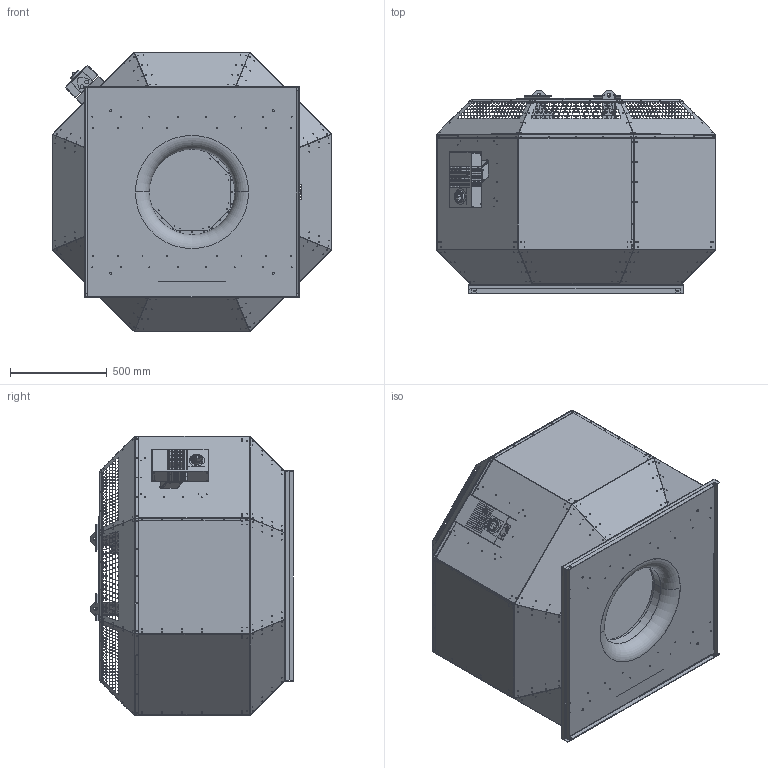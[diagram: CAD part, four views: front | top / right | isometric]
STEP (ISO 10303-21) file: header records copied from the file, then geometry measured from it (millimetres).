
FILE_DESCRIPTION (( 'STEP AP203' ), '1' );
FILE_NAME ('144600-00_DVN710D6F430_step.step', '2018-12-21T10:22:23', ( '' ), ( '' ), 'SwSTEP 2.0', 'SolidWorks 2017', '' );
FILE_SCHEMA (( 'CONFIG_CONTROL_DESIGN' ));
Length unit declared in the file: millimetre
Products named in the file (1): 144600-00_DVN710D6F430_step
Bounding box: 1443 x 1048.2 x 1443 mm (x, y, z)
Surface area: 15025456.1 mm2 (no closed solid volume)
Topology: 0 solids, 75 shells, 2928 faces, 25723 edges, 21248 vertices
Faces by surface type: plane 2367, cylinder 543, torus 9, bspline 9
Entity records: 241880 total; most frequent: CARTESIAN_POINT 50902, DIRECTION 34631, ORIENTED_EDGE 31955, EDGE_CURVE 25723, LINE 22265, VECTOR 22265, VERTEX_POINT 21248, EDGE_LOOP 8620
